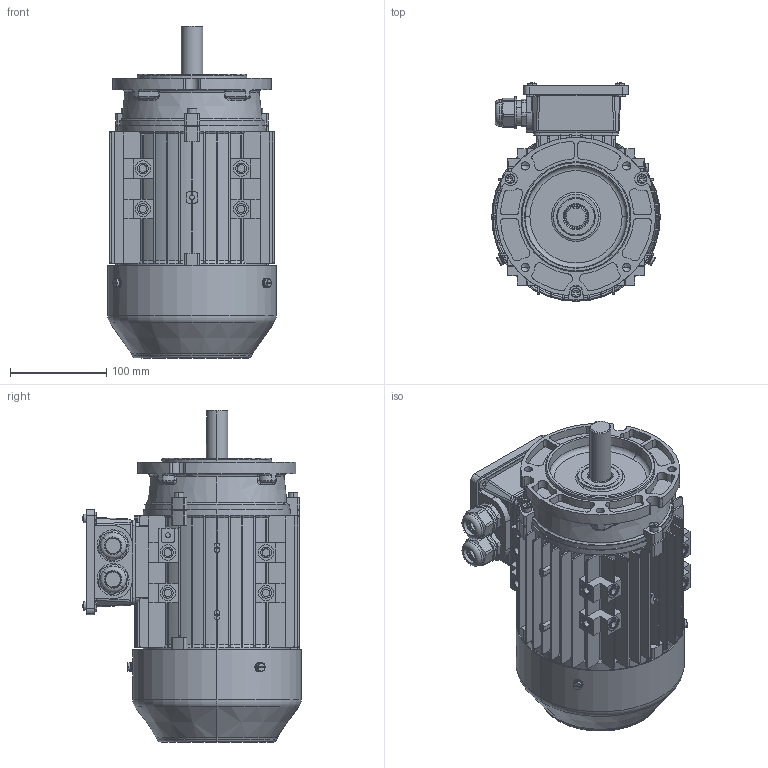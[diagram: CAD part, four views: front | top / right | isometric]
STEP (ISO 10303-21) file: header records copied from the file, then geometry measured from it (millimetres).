
FILE_DESCRIPTION (( 'STEP AP203' ), '1' );
FILE_NAME ('JLN3-143TC.STEP', '2021-03-05T01:01:22', ( 'Windows 用户' ), ( '微软中国' ), 'SwSTEP 2.0', 'SolidWorks 2016', '' );
FILE_SCHEMA (( 'CONFIG_CONTROL_DESIGN' ));
Length unit declared in the file: millimetre
Products named in the file (7): JLN3-143TC; JL-90-100諉盄碟; 蹟譫蹟杶囀ㄗM25ㄘ; 蹟譫蹟杶俋ㄗM25ㄘ; 蹟譫蹟杶砎蝶ㄗM25); 蹟譫蹟杶ㄗM25ㄘ
Assembly tree (7 placements, depth 3):
  JLN3-143TC
    JLN3-143TC
    JL-90-100諉盄碟
    蹟譫蹟杶ㄗM25ㄘ  x2
      蹟譫蹟杶囀ㄗM25ㄘ
      蹟譫蹟杶俋ㄗM25ㄘ
      蹟譫蹟杶砎蝶ㄗM25)
Bounding box: 175 x 226.92 x 344.99 mm (x, y, z)
Volume: 1263634.4 mm3; surface area: 758518.1 mm2
Topology: 22 solids, 25 shells, 3457 faces, 9289 edges, 5943 vertices
Faces by surface type: plane 1505, cylinder 1182, cone 413, torus 268, bspline 89
Entity records: 112168 total; most frequent: CARTESIAN_POINT 30034, ORIENTED_EDGE 17398, DIRECTION 16981, EDGE_CURVE 8699, AXIS2_PLACEMENT_3D 6358, VERTEX_POINT 5605, VECTOR 4265, LINE 4265
